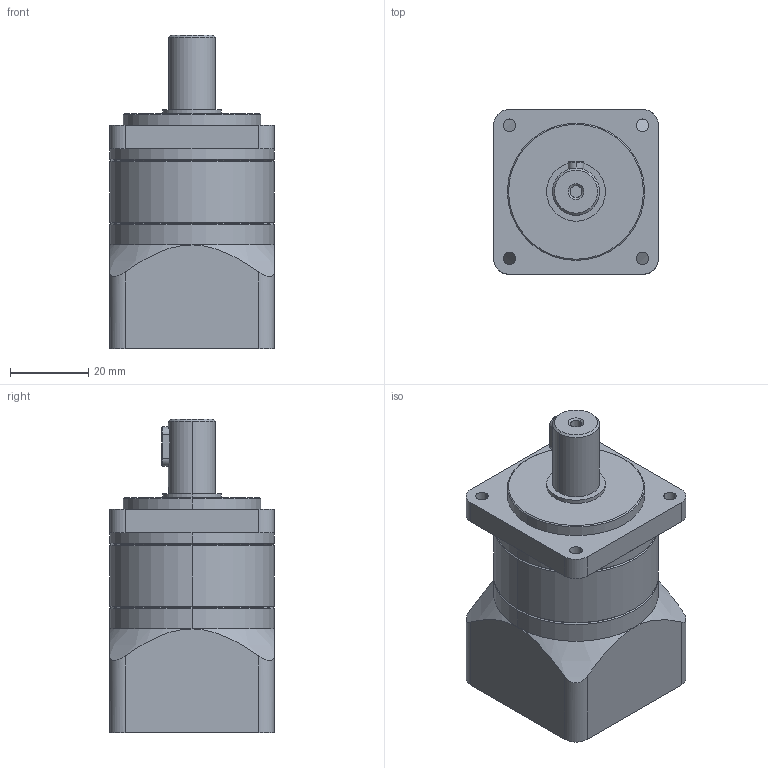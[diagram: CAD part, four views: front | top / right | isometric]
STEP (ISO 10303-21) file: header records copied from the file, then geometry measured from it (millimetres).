
FILE_DESCRIPTION (( 'STEP AP203' ), '1' );
FILE_NAME ('40-L1.STEP', '2012-03-22T08:45:43', ( 'CPC-PC' ), ( '' ), 'SwSTEP 2.0', 'SolidWorks 2009', '' );
FILE_SCHEMA (( 'CONFIG_CONTROL_DESIGN' ));
Length unit declared in the file: millimetre
Products named in the file (5): 4B; 4R; 4F; 40-L1; 4T
Assembly tree (4 placements, depth 2):
  40-L1
    4R
    4F
    4B
    4T
Bounding box: 42 x 42 x 80 mm (x, y, z)
Volume: 90016.7 mm3; surface area: 21468.2 mm2
Topology: 4 solids, 4 shells, 117 faces, 250 edges, 152 vertices
Faces by surface type: cylinder 49, plane 33, cone 32, torus 3
Entity records: 3916 total; most frequent: CARTESIAN_POINT 773, DIRECTION 611, ORIENTED_EDGE 500, AXIS2_PLACEMENT_3D 252, EDGE_CURVE 250, VERTEX_POINT 152, EDGE_LOOP 136, CIRCLE 128
